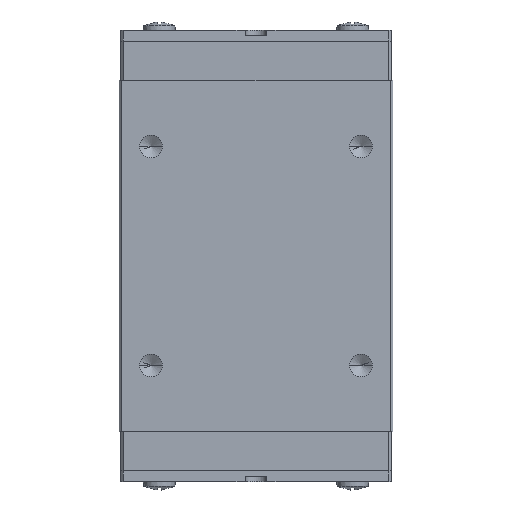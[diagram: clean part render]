
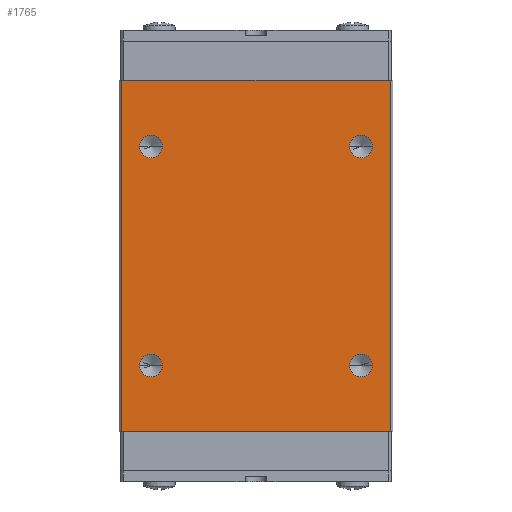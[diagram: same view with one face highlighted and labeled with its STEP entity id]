
A CAD part, top view. The second image highlights one B-rep face of the part: STEP entity #1765.
In plain terms, the highlighted planar face has unit normal (0, 0, 1).
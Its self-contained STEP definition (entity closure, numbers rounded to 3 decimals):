
#1085=EDGE_CURVE('',#1933,#1209,#3219,.T.);
#1209=VERTEX_POINT('',#3360);
#1227=VERTEX_POINT('',#3379);
#1315=VERTEX_POINT('',#3475);
#1391=VERTEX_POINT('',#3561);
#1557=EDGE_CURVE('',#1209,#1933,#3739,.T.);
#1603=VERTEX_POINT('',#3789);
#1627=VERTEX_POINT('',#3814);
#1635=VERTEX_POINT('',#3823);
#1765=ADVANCED_FACE('',(#3963,#3964,#3965,#3966,#3967),#3968,.T.);
#1791=EDGE_CURVE('',#1635,#2191,#3997,.T.);
#1933=VERTEX_POINT('',#4157);
#1989=EDGE_CURVE('',#1227,#1627,#4220,.T.);
#2155=EDGE_CURVE('',#1391,#1603,#4395,.T.);
#2191=VERTEX_POINT('',#4438);
#2243=VERTEX_POINT('',#4497);
#2453=EDGE_CURVE('',#2243,#1315,#4731,.T.);
#2627=EDGE_CURVE('',#2191,#1635,#4916,.T.);
#2709=VERTEX_POINT('',#5007);
#2817=VERTEX_POINT('',#5127);
#2901=EDGE_CURVE('',#2709,#2817,#5218,.T.);
#2999=EDGE_CURVE('',#1315,#2243,#5325,.T.);
#3079=EDGE_CURVE('',#1627,#1227,#5415,.T.);
#3081=EDGE_CURVE('',#1391,#2709,#5417,.T.);
#3161=EDGE_CURVE('',#1603,#2817,#5502,.T.);
#3219=CIRCLE('',#5558,1.25);
#3360=CARTESIAN_POINT('',(-10.25,36.8,12.0));
#3379=CARTESIAN_POINT('',(-10.25,12.8,12.0));
#3475=CARTESIAN_POINT('',(10.25,36.8,12.0));
#3561=CARTESIAN_POINT('',(-14.7,44.05,12.0));
#3739=CIRCLE('',#6379,1.25);
#3789=CARTESIAN_POINT('',(14.7,44.05,12.0));
#3814=CARTESIAN_POINT('',(-12.75,12.8,12.0));
#3823=CARTESIAN_POINT('',(10.25,12.8,12.0));
#3963=FACE_BOUND('',#6743,.T.);
#3964=FACE_BOUND('',#6744,.T.);
#3965=FACE_BOUND('',#6745,.T.);
#3966=FACE_BOUND('',#6746,.T.);
#3967=FACE_OUTER_BOUND('',#6747,.T.);
#3968=PLANE('',#6748);
#3997=CIRCLE('',#6794,1.25);
#4157=CARTESIAN_POINT('',(-12.75,36.8,12.0));
#4220=CIRCLE('',#7105,1.25);
#4395=LINE('',#7410,#7411);
#4438=CARTESIAN_POINT('',(12.75,12.8,12.0));
#4497=CARTESIAN_POINT('',(12.75,36.8,12.0));
#4731=CIRCLE('',#7919,1.25);
#4916=CIRCLE('',#8221,1.25);
#5007=CARTESIAN_POINT('',(-14.7,5.55,12.0));
#5127=CARTESIAN_POINT('',(14.7,5.55,12.0));
#5218=LINE('',#8724,#8725);
#5325=CIRCLE('',#8899,1.25);
#5415=CIRCLE('',#9030,1.25);
#5417=LINE('',#9033,#9034);
#5502=LINE('',#9182,#9183);
#5558=AXIS2_PLACEMENT_3D('',#9271,#9272,#9273);
#6379=AXIS2_PLACEMENT_3D('',#9841,#9842,#9843);
#6743=EDGE_LOOP('',(#10071,#10072));
#6744=EDGE_LOOP('',(#10073,#10074));
#6745=EDGE_LOOP('',(#10075,#10076));
#6746=EDGE_LOOP('',(#10077,#10078));
#6747=EDGE_LOOP('',(#10079,#10080,#10081,#10082));
#6748=AXIS2_PLACEMENT_3D('',#10083,#10084,#10085);
#6794=AXIS2_PLACEMENT_3D('',#10113,#10114,#10115);
#7105=AXIS2_PLACEMENT_3D('',#10406,#10407,#10408);
#7410=CARTESIAN_POINT('',(-14.7,44.05,12.0));
#7411=VECTOR('',#10536,1.0);
#7919=AXIS2_PLACEMENT_3D('',#10955,#10956,#10957);
#8221=AXIS2_PLACEMENT_3D('',#11128,#11129,#11130);
#8724=CARTESIAN_POINT('',(-14.7,5.55,12.0));
#8725=VECTOR('',#11414,1.0);
#8899=AXIS2_PLACEMENT_3D('',#11515,#11516,#11517);
#9030=AXIS2_PLACEMENT_3D('',#11637,#11638,#11639);
#9033=CARTESIAN_POINT('',(-14.7,44.05,12.0));
#9034=VECTOR('',#11640,1.0);
#9182=CARTESIAN_POINT('',(14.7,44.05,12.0));
#9183=VECTOR('',#11707,1.0);
#9271=CARTESIAN_POINT('',(-11.5,36.8,12.0));
#9272=DIRECTION('',(0.0,0.0,-1.0));
#9273=DIRECTION('',(1.0,0.0,0.0));
#9841=CARTESIAN_POINT('',(-11.5,36.8,12.0));
#9842=DIRECTION('',(0.0,0.0,-1.0));
#9843=DIRECTION('',(1.0,0.0,0.0));
#10071=ORIENTED_EDGE('',*,*,#2453,.T.);
#10072=ORIENTED_EDGE('',*,*,#2999,.T.);
#10073=ORIENTED_EDGE('',*,*,#2627,.T.);
#10074=ORIENTED_EDGE('',*,*,#1791,.T.);
#10075=ORIENTED_EDGE('',*,*,#1557,.T.);
#10076=ORIENTED_EDGE('',*,*,#1085,.T.);
#10077=ORIENTED_EDGE('',*,*,#1989,.T.);
#10078=ORIENTED_EDGE('',*,*,#3079,.T.);
#10079=ORIENTED_EDGE('',*,*,#2901,.T.);
#10080=ORIENTED_EDGE('',*,*,#3161,.F.);
#10081=ORIENTED_EDGE('',*,*,#2155,.F.);
#10082=ORIENTED_EDGE('',*,*,#3081,.T.);
#10083=CARTESIAN_POINT('',(-14.7,44.05,12.0));
#10084=DIRECTION('',(0.0,0.0,1.0));
#10085=DIRECTION('',(-1.0,0.0,-0.0));
#10113=CARTESIAN_POINT('',(11.5,12.8,12.0));
#10114=DIRECTION('',(0.0,0.0,-1.0));
#10115=DIRECTION('',(1.0,0.0,0.0));
#10406=CARTESIAN_POINT('',(-11.5,12.8,12.0));
#10407=DIRECTION('',(0.0,0.0,-1.0));
#10408=DIRECTION('',(1.0,0.0,0.0));
#10536=DIRECTION('',(1.0,0.0,0.0));
#10955=CARTESIAN_POINT('',(11.5,36.8,12.0));
#10956=DIRECTION('',(0.0,0.0,-1.0));
#10957=DIRECTION('',(1.0,0.0,0.0));
#11128=CARTESIAN_POINT('',(11.5,12.8,12.0));
#11129=DIRECTION('',(0.0,0.0,-1.0));
#11130=DIRECTION('',(1.0,0.0,0.0));
#11414=DIRECTION('',(1.0,0.0,0.0));
#11515=CARTESIAN_POINT('',(11.5,36.8,12.0));
#11516=DIRECTION('',(0.0,0.0,-1.0));
#11517=DIRECTION('',(1.0,0.0,0.0));
#11637=CARTESIAN_POINT('',(-11.5,12.8,12.0));
#11638=DIRECTION('',(0.0,0.0,-1.0));
#11639=DIRECTION('',(1.0,0.0,0.0));
#11640=DIRECTION('',(0.0,-1.0,0.0));
#11707=DIRECTION('',(0.0,-1.0,0.0));
